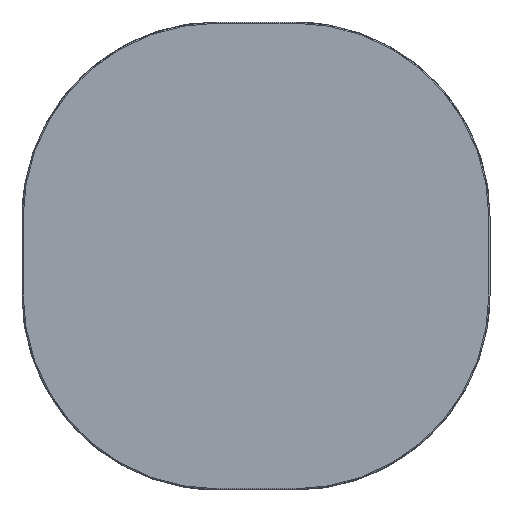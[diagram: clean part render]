
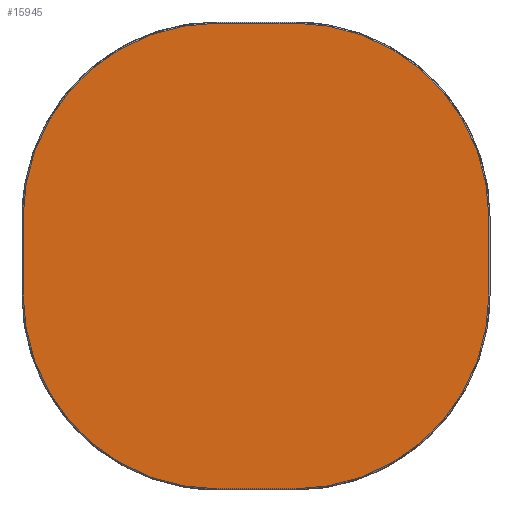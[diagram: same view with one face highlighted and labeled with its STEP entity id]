
A CAD part, top view. The second image highlights one B-rep face of the part: STEP entity #15945.
In plain terms, the highlighted planar face has unit normal (0, 0, 1).
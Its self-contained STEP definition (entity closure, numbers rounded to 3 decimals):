
#15855=CARTESIAN_POINT('',(0.,0.,20.));
#15856=DIRECTION('',(1.,0.,0.));
#15857=DIRECTION('',(0.,0.,1.));
#15858=AXIS2_PLACEMENT_3D('',#15855,#15857,#15856);
#15859=PLANE('',#15858);
#15860=CARTESIAN_POINT('',(-50.,-298.5,20.));
#15861=VERTEX_POINT('',#15860);
#15862=CARTESIAN_POINT('',(50.,-298.5,20.));
#15863=VERTEX_POINT('',#15862);
#15864=CARTESIAN_POINT('',(-50.,-298.5,20.));
#15865=DIRECTION('',(1.,0.,0.));
#15866=VECTOR('',#15865,100.);
#15867=LINE('',#15864,#15866);
#15868=EDGE_CURVE('',#15861,#15863,#15867,.T.);
#15869=ORIENTED_EDGE('E105',*,*,#15868,.T.);
#15870=CARTESIAN_POINT('',(298.5,-50.,20.));
#15871=VERTEX_POINT('',#15870);
#15872=CARTESIAN_POINT('',(50.,-50.,20.));
#15873=DIRECTION('',(0.,-1.,0.));
#15874=DIRECTION('',(0.,0.,1.));
#15875=AXIS2_PLACEMENT_3D('',#15872,#15874,#15873);
#15876=CIRCLE('',#15875,248.5);
#15877=EDGE_CURVE('',#15863,#15871,#15876,.T.);
#15878=ORIENTED_EDGE('E107',*,*,#15877,.T.);
#15879=CARTESIAN_POINT('',(298.5,50.001,20.));
#15880=VERTEX_POINT('',#15879);
#15881=CARTESIAN_POINT('',(298.5,-50.,20.));
#15882=CARTESIAN_POINT('',(298.5,-23.745,20.));
#15883=CARTESIAN_POINT('',(298.501,26.256,20.));
#15884=CARTESIAN_POINT('',(298.5,50.001,20.));
#15885=B_SPLINE_CURVE_WITH_KNOTS('',2,(#15881,#15882,#15883,#15884),.UNSPECIFIED.,.F.,.U.,(3,1,3),(0.,0.525,1.),.UNSPECIFIED.);
#15886=EDGE_CURVE('',#15871,#15880,#15885,.T.);
#15887=ORIENTED_EDGE('E109',*,*,#15886,.T.);
#15888=CARTESIAN_POINT('',(50.,298.5,20.));
#15889=VERTEX_POINT('',#15888);
#15890=CARTESIAN_POINT('',(50.,50.,20.));
#15891=DIRECTION('',(1.,0.,0.));
#15892=DIRECTION('',(0.,0.,1.));
#15893=AXIS2_PLACEMENT_3D('',#15890,#15892,#15891);
#15894=CIRCLE('',#15893,248.5);
#15895=EDGE_CURVE('',#15880,#15889,#15894,.T.);
#15896=ORIENTED_EDGE('E111',*,*,#15895,.T.);
#15897=CARTESIAN_POINT('',(-50.001,298.5,20.));
#15898=VERTEX_POINT('',#15897);
#15899=CARTESIAN_POINT('',(50.,298.5,20.));
#15900=CARTESIAN_POINT('',(44.06,298.499,20.));
#15901=CARTESIAN_POINT('',(33.903,298.5,20.));
#15902=CARTESIAN_POINT('',(23.359,298.5,20.));
#15903=CARTESIAN_POINT('',(7.191,298.5,20.));
#15904=CARTESIAN_POINT('',(-12.023,298.5,20.));
#15905=CARTESIAN_POINT('',(-27.644,298.501,20.));
#15906=CARTESIAN_POINT('',(-38.058,298.499,20.));
#15907=CARTESIAN_POINT('',(-46.112,298.498,20.));
#15908=CARTESIAN_POINT('',(-50.001,298.5,20.));
#15909=B_SPLINE_CURVE_WITH_KNOTS('',2,(#15899,#15900,#15901,#15902,#15903,#15904,#15905,#15906,#15907,#15908),.UNSPECIFIED.,.F.,.U.,(3,1,1,1,1,1,1,1,3),(0.,0.119,0.203,0.33,0.527,0.714,0.839,0.922,1.),.UNSPECIFIED.);
#15910=EDGE_CURVE('',#15889,#15898,#15909,.T.);
#15911=ORIENTED_EDGE('E113',*,*,#15910,.T.);
#15912=CARTESIAN_POINT('',(-298.5,50.,20.));
#15913=VERTEX_POINT('',#15912);
#15914=CARTESIAN_POINT('',(-50.,50.,20.));
#15915=DIRECTION('',(0.,1.,0.));
#15916=DIRECTION('',(0.,0.,1.));
#15917=AXIS2_PLACEMENT_3D('',#15914,#15916,#15915);
#15918=CIRCLE('',#15917,248.5);
#15919=EDGE_CURVE('',#15898,#15913,#15918,.T.);
#15920=ORIENTED_EDGE('E115',*,*,#15919,.T.);
#15921=CARTESIAN_POINT('',(-298.5,-50.001,20.));
#15922=VERTEX_POINT('',#15921);
#15923=CARTESIAN_POINT('',(-298.5,50.,20.));
#15924=CARTESIAN_POINT('',(-298.499,44.06,20.));
#15925=CARTESIAN_POINT('',(-298.5,33.903,20.));
#15926=CARTESIAN_POINT('',(-298.5,23.359,20.));
#15927=CARTESIAN_POINT('',(-298.5,7.191,20.));
#15928=CARTESIAN_POINT('',(-298.5,-12.023,20.));
#15929=CARTESIAN_POINT('',(-298.501,-27.644,20.));
#15930=CARTESIAN_POINT('',(-298.499,-38.058,20.));
#15931=CARTESIAN_POINT('',(-298.498,-46.112,20.));
#15932=CARTESIAN_POINT('',(-298.5,-50.001,20.));
#15933=B_SPLINE_CURVE_WITH_KNOTS('',2,(#15923,#15924,#15925,#15926,#15927,#15928,#15929,#15930,#15931,#15932),.UNSPECIFIED.,.F.,.U.,(3,1,1,1,1,1,1,1,3),(0.,0.119,0.203,0.33,0.527,0.714,0.839,0.922,1.),.UNSPECIFIED.);
#15934=EDGE_CURVE('',#15913,#15922,#15933,.T.);
#15935=ORIENTED_EDGE('E117',*,*,#15934,.T.);
#15936=CARTESIAN_POINT('',(-50.,-50.,20.));
#15937=DIRECTION('',(-1.,0.,0.));
#15938=DIRECTION('',(0.,0.,1.));
#15939=AXIS2_PLACEMENT_3D('',#15936,#15938,#15937);
#15940=CIRCLE('',#15939,248.5);
#15941=EDGE_CURVE('',#15922,#15861,#15940,.T.);
#15942=ORIENTED_EDGE('E119',*,*,#15941,.T.);
#15943=EDGE_LOOP('',(#15869,#15878,#15887,#15896,#15911,#15920,#15935,#15942));
#15944=FACE_OUTER_BOUND('',#15943,.T.);
#15945=ADVANCED_FACE('F2',(#15944),#15859,.T.);
